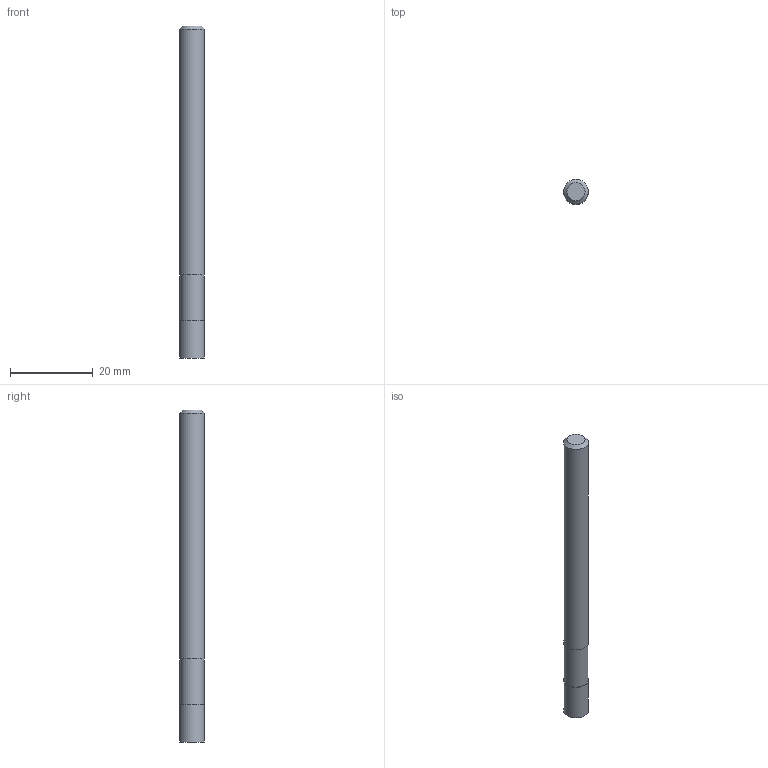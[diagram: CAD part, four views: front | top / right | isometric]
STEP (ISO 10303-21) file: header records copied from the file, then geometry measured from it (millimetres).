
FILE_DESCRIPTION((''),'2;1');
FILE_NAME('C:\Users\nsx150\AppData\Local\Temp\Mastercam 2021\3SYKECWX22\TEMP.step','2021-04-22T09:39:58',(''),(''),'STEP Write','Mastercam 2021 ... CNC Software, Inc.','');
FILE_SCHEMA(('AUTOMOTIVE_DESIGN'));
Length unit declared in the file: millimetre
Products named in the file (1): None
Bounding box: 6 x 6 x 80 mm (x, y, z)
Volume: 2236.1 mm3; surface area: 1604.5 mm2
Topology: 2 solids, 2 shells, 9 faces, 11 edges, 7 vertices
Faces by surface type: plane 5, cylinder 3, cone 1
Full cylindrical faces by diameter (mm): 5.8 x1, 6 x2
Entity records: 211 total; most frequent: DIRECTION 36, CARTESIAN_POINT 25, AXIS2_PLACEMENT_3D 18, ORIENTED_EDGE 14, EDGE_LOOP 14, STYLED_ITEM 12, ADVANCED_FACE 9, FACE_BOUND 8
